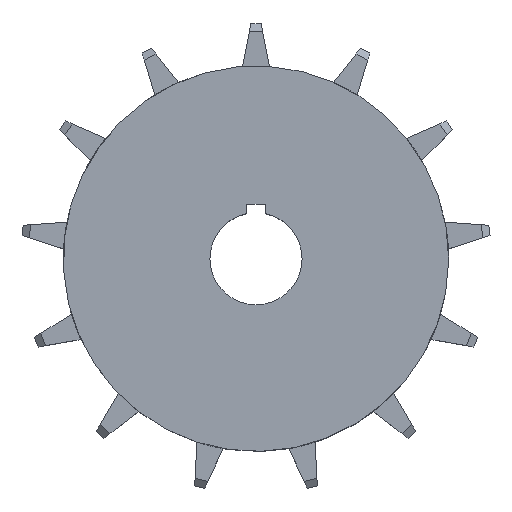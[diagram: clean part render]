
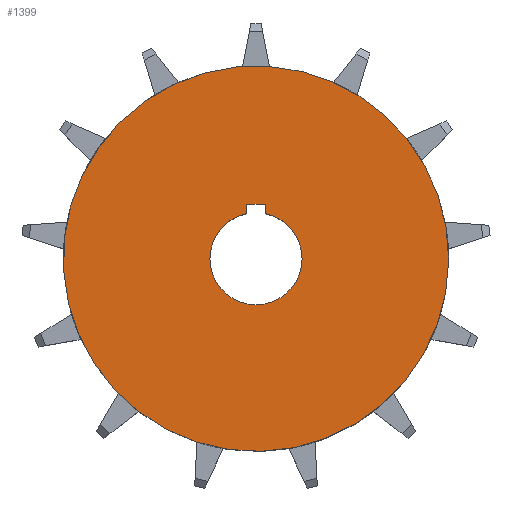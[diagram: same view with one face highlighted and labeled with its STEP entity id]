
A CAD part, top view. The second image highlights one B-rep face of the part: STEP entity #1399.
In plain terms, the highlighted planar face has unit normal (0, 0, 1).
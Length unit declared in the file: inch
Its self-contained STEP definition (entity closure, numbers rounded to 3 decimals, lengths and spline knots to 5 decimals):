
#2=CARTESIAN_POINT('',(0.,0.,0.));
#3=DIRECTION('',(0.,0.,1.));
#4=DIRECTION('',(0.663,0.749,0.));
#5=AXIS2_PLACEMENT_3D('',#2,#3,#4);
#7=DIRECTION('',(0.,-1.,0.));
#8=VECTOR('',#7,0.125);
#9=CARTESIAN_POINT('',(0.125,0.73737,0.));
#10=LINE('',#9,#8);
#11=DIRECTION('',(1.,0.,0.));
#12=VECTOR('',#11,0.25);
#13=CARTESIAN_POINT('',(-0.125,0.73737,0.));
#14=LINE('',#13,#12);
#15=DIRECTION('',(0.,1.,0.));
#16=VECTOR('',#15,0.125);
#17=CARTESIAN_POINT('',(-0.125,0.61237,0.));
#18=LINE('',#17,#16);
#19=CARTESIAN_POINT('',(0.,0.,0.));
#20=DIRECTION('',(0.,0.,-1.));
#21=DIRECTION('',(0.2,0.98,0.));
#22=AXIS2_PLACEMENT_3D('',#19,#20,#21);
#240=CARTESIAN_POINT('',(0.,0.,0.));
#241=DIRECTION('',(0.,0.,1.));
#242=DIRECTION('',(0.239,0.971,0.));
#243=AXIS2_PLACEMENT_3D('',#240,#241,#242);
#1051=CARTESIAN_POINT('',(0.62527,2.53681,0.));
#1053=VERTEX_POINT('',#1051);
#1055=CARTESIAN_POINT('',(1.73256,1.95565,0.));
#1057=VERTEX_POINT('',#1055);
#1362=CARTESIAN_POINT('',(0.125,0.73737,0.));
#1363=CARTESIAN_POINT('',(0.125,0.61237,0.));
#1364=VERTEX_POINT('',#1362);
#1365=VERTEX_POINT('',#1363);
#1366=CARTESIAN_POINT('',(-0.125,0.61237,0.));
#1367=VERTEX_POINT('',#1366);
#1368=CARTESIAN_POINT('',(-0.125,0.73737,0.));
#1369=VERTEX_POINT('',#1368);
#1378=CARTESIAN_POINT('',(0.,0.,0.));
#1379=DIRECTION('',(0.,0.,1.));
#1380=DIRECTION('',(1.,0.,0.));
#1381=AXIS2_PLACEMENT_3D('',#1378,#1379,#1380);
#1382=PLANE('',#1381);
#1384=ORIENTED_EDGE('',*,*,#1383,.F.);
#1386=ORIENTED_EDGE('',*,*,#1385,.F.);
#1387=EDGE_LOOP('',(#1384,#1386));
#1388=FACE_OUTER_BOUND('',#1387,.F.);
#1390=ORIENTED_EDGE('',*,*,#1389,.F.);
#1392=ORIENTED_EDGE('',*,*,#1391,.F.);
#1394=ORIENTED_EDGE('',*,*,#1393,.F.);
#1396=ORIENTED_EDGE('',*,*,#1395,.F.);
#1397=EDGE_LOOP('',(#1390,#1392,#1394,#1396));
#1398=FACE_BOUND('',#1397,.F.);
#1399=ADVANCED_FACE('',(#1388,#1398),#1382,.T.);
#6=CIRCLE('',#5,2.61273);
#23=CIRCLE('',#22,0.625);
#244=CIRCLE('',#243,2.61273);
#1383=EDGE_CURVE('',#1053,#1057,#244,.T.);
#1385=EDGE_CURVE('',#1057,#1053,#6,.T.);
#1389=EDGE_CURVE('',#1364,#1365,#10,.T.);
#1391=EDGE_CURVE('',#1369,#1364,#14,.T.);
#1393=EDGE_CURVE('',#1367,#1369,#18,.T.);
#1395=EDGE_CURVE('',#1365,#1367,#23,.T.);
